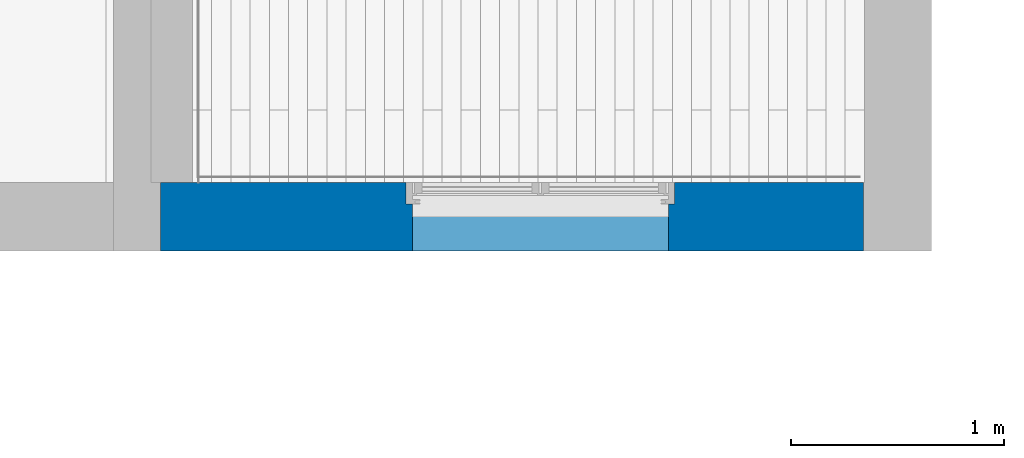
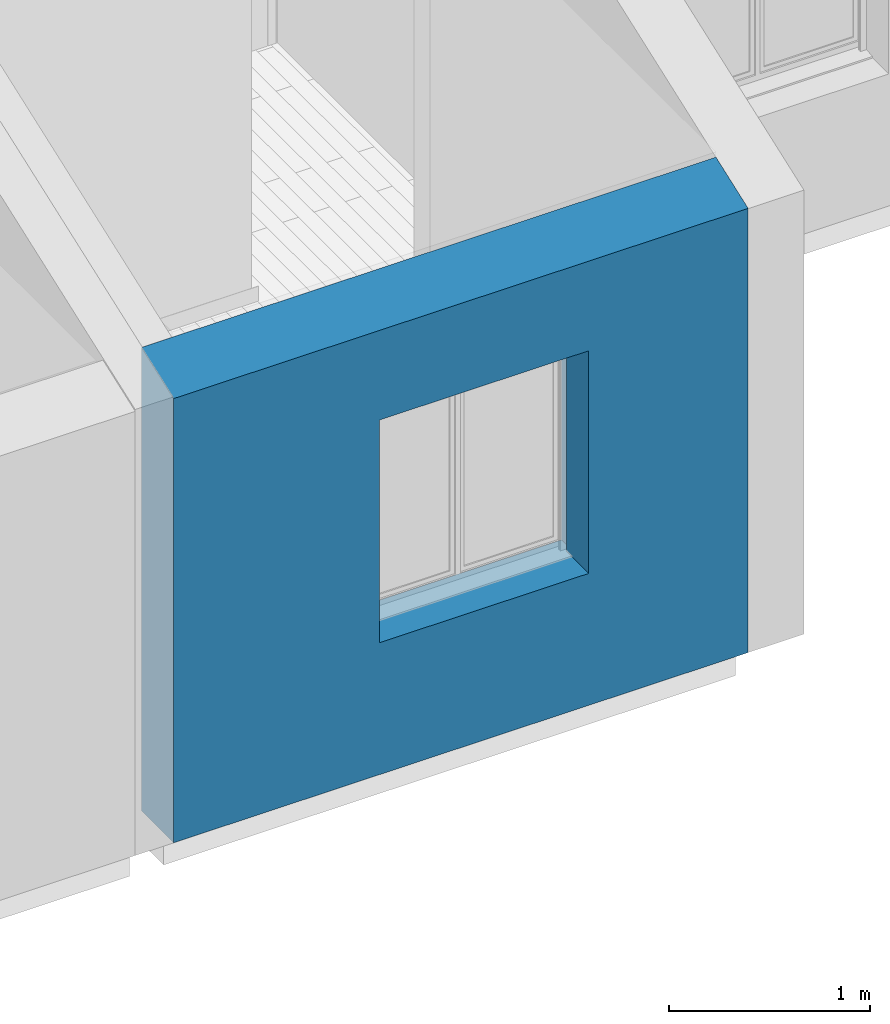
# One storey, part 26 of 61: 1 wall, 1 opening.
"""IFC2X3 building model written with IfcOpenShell, lengths in metres."""

import ifcopenshell
import ifcopenshell.guid

model = None  # the IFC model being written
_history = None  # IfcOwnerHistory: only IFC2X3 demands one
_inside = {}  # id of a spatial element -> (the spatial element, [elements in it])
_under = {}  # id of a project, library or spatial element -> (it, [spatial elements below it])
_declared = {}  # id of a project -> (the project, [libraries it declares])
_typed = {}  # id of a type object -> (the type object, [elements of that type])
_made_of = {}  # id of a material, layer set ... -> (it, [elements and type objects made of it])


def new_model(schema):
    """Start an empty IFC model of exactly this schema.

    Asked for "IFC4X3", IfcOpenShell would pick the latest addendum, in which some entities
    have other attributes; the version numbers below select the first issue.
    IFC2X3 requires an IfcOwnerHistory on every rooted entity: one is made here for all.
    """
    global model, _history
    if schema == "IFC4X3":
        model = ifcopenshell.file(schema_version=(4, 3, 0, 0))
    else:
        model = ifcopenshell.file(schema=schema)
    _inside.clear()
    _under.clear()
    _declared.clear()
    _typed.clear()
    _made_of.clear()
    _history = None
    if model.schema == "IFC2X3":
        org = make("IfcOrganization", Name="unknown")
        user = make(
            "IfcPersonAndOrganization",
            ThePerson=make("IfcPerson", FamilyName="unknown"),
            TheOrganization=org,
        )
        app = make(
            "IfcApplication",
            ApplicationDeveloper=org,
            Version="unknown",
            ApplicationFullName="unknown",
            ApplicationIdentifier="unknown",
        )
        _history = make(
            "IfcOwnerHistory",
            OwningUser=user,
            OwningApplication=app,
            ChangeAction="ADDED",
            CreationDate=0,
        )
    return model


def make(cls, **values):
    """One entity of the class cls with the attributes given. An attribute that is None is left unset."""
    return model.create_entity(
        cls, **{name: value for name, value in values.items() if value is not None}
    )


def entity(cls, *values):
    """Any entity or typed value of the class cls, its attributes in the order of the schema. None: left unset."""
    e = model.create_entity(cls)
    for i, value in enumerate(values):
        if value is not None:
            e[i] = value
    return e


def rooted(cls, **values):
    """An entity with a GlobalId (a new one), such as an element, a storey or a relation."""
    return make(cls, GlobalId=ifcopenshell.guid.new(), OwnerHistory=_history, **values)


def si_unit(unit_type, name, prefix=None):
    """IfcSIUnit, for example si_unit("LENGTHUNIT", "METRE", prefix="MILLI")."""
    return make("IfcSIUnit", UnitType=unit_type, Prefix=prefix, Name=name)


def converted_unit(unit_type, name, factor, base, dimensions=None, offset=None):
    """IfcConversionBasedUnit, such as the inch: factor (a typed value) times the base unit."""
    return make(
        "IfcConversionBasedUnit"
        if offset is None
        else "IfcConversionBasedUnitWithOffset",
        ConversionOffset=offset,
        Dimensions=None
        if dimensions is None
        else entity("IfcDimensionalExponents", *dimensions),
        UnitType=unit_type,
        Name=name,
        ConversionFactor=make(
            "IfcMeasureWithUnit", ValueComponent=factor, UnitComponent=base
        ),
    )


def derived_unit(unit_type, elements):
    """IfcDerivedUnit: a product of units, each with its exponent."""
    return make(
        "IfcDerivedUnit",
        Elements=[
            make("IfcDerivedUnitElement", Unit=unit, Exponent=power)
            for unit, power in elements
        ],
        UnitType=unit_type,
    )


def assignment(units):
    """IfcUnitAssignment: the units of a project."""
    return None if units is None else make("IfcUnitAssignment", Units=units)


def point(xyz):
    """IfcCartesianPoint."""
    return None if xyz is None else make("IfcCartesianPoint", Coordinates=xyz)


def direction(xyz):
    """IfcDirection."""
    return None if xyz is None else make("IfcDirection", DirectionRatios=xyz)


def frame(location, z_axis=None, x_axis=None):
    """IfcAxis2Placement3D, a coordinate frame: its origin and axes. An axis left out is left unset."""
    return make(
        "IfcAxis2Placement3D",
        Location=point(location),
        Axis=direction(z_axis),
        RefDirection=direction(x_axis),
    )


def frame_2d(location, x_axis=None):
    """IfcAxis2Placement2D, a coordinate frame in the plane: its origin and x axis."""
    return make(
        "IfcAxis2Placement2D", Location=point(location), RefDirection=direction(x_axis)
    )


def origin():
    """The frame at (0, 0, 0) with its axes left unset."""
    return frame((0.0, 0.0, 0.0))


def place(relative_to, where):
    """IfcLocalPlacement: puts the frame where relative to a parent placement (None: the world)."""
    return make(
        "IfcLocalPlacement", PlacementRelTo=relative_to, RelativePlacement=where
    )


def context(
    kind, dimensions, precision=None, world=None, true_north=None, identifier=None
):
    """IfcGeometricRepresentationContext, for example the 3D "Model" context."""
    return make(
        "IfcGeometricRepresentationContext",
        ContextIdentifier=identifier,
        ContextType=kind,
        CoordinateSpaceDimension=dimensions,
        Precision=precision,
        WorldCoordinateSystem=world,
        TrueNorth=true_north,
    )


def subcontext(parent, identifier, kind, view, scale=None):
    """IfcGeometricRepresentationSubContext, for example "Body" below "Model"."""
    return make(
        "IfcGeometricRepresentationSubContext",
        ContextIdentifier=identifier,
        ContextType=kind,
        ParentContext=parent,
        TargetScale=scale,
        TargetView=view,
    )


def project(units=None, contexts=None):
    """IfcProject with its units and contexts."""
    return rooted(
        "IfcProject",
        Name="project",
        RepresentationContexts=contexts,
        UnitsInContext=assignment(units),
    )


def spatial(cls, under=None, at=None, **own):
    """A site, building, storey or space (cls), placed at a placement, below another one or the project."""
    s = rooted(cls, ObjectPlacement=at, **own)
    if under is not None:
        _under.setdefault(under.id(), (under, []))[1].append(s)
    return s


def polyline(points):
    """IfcPolyline through the points."""
    return make("IfcPolyline", Points=[point(p) for p in points])


def profile(cls, at=None, kind="AREA", **sizes):
    """A parametric profile (cls). Its sizes go by their IFC names, for example OverallWidth=200.0."""
    return make(cls, ProfileType=kind, Position=at, **sizes)


def rectangle(**sizes):
    """IfcRectangleProfileDef."""
    return profile("IfcRectangleProfileDef", **sizes)


def extrude(swept, where, along, depth):
    """IfcExtrudedAreaSolid: the profile swept, set in the frame where, extruded along a direction by depth."""
    return make(
        "IfcExtrudedAreaSolid",
        SweptArea=swept,
        Position=where,
        ExtrudedDirection=direction(along),
        Depth=depth,
    )


def clip(a, b, op="DIFFERENCE"):
    """IfcBooleanClippingResult: the solid a cut by the half space b."""
    return make(
        "IfcBooleanClippingResult", Operator=op, FirstOperand=a, SecondOperand=b
    )


def bounded_halfspace(plane, agree, where, boundary):
    """IfcPolygonalBoundedHalfSpace: a half space limited to a polygon's prism."""
    return make(
        "IfcPolygonalBoundedHalfSpace",
        BaseSurface=make("IfcPlane", Position=plane),
        AgreementFlag=agree,
        Position=where,
        PolygonalBoundary=boundary,
    )


def faces_of(points, faces, orient=None, outer=None):
    """IfcFace entities. A face is a list of loops; a loop is a list of indices into points, from 0.

    orient and outer hold one flag for each loop. By default every Orientation is true, the
    first loop of a face is its IfcFaceOuterBound and the others are IfcFaceBound.
    """
    made = []
    for i, loops in enumerate(faces):
        bounds = []
        for j, loop in enumerate(loops):
            is_outer = j == 0 if outer is None else outer[i][j]
            bounds.append(
                make(
                    "IfcFaceOuterBound" if is_outer else "IfcFaceBound",
                    Bound=make("IfcPolyLoop", Polygon=[points[k] for k in loop]),
                    Orientation=True if orient is None else orient[i][j],
                )
            )
        made.append(make("IfcFace", Bounds=bounds))
    return made


def faceted_brep(points, faces, orient=None, outer=None, voids=None):
    """IfcFacetedBrep: a solid bounded by flat faces; with voids (closed shells), ...WithVoids."""
    shared = [point(p) for p in points]
    hull = make("IfcClosedShell", CfsFaces=faces_of(shared, faces, orient, outer))
    if voids is None:
        return make("IfcFacetedBrep", Outer=hull)
    return make(
        "IfcFacetedBrepWithVoids",
        Outer=hull,
        Voids=[
            make(cls, CfsFaces=faces_of(shared, fs, o, b)) for cls, fs, o, b in voids
        ],
    )


def shape(context_of_items, identifier, shape_type, items):
    """IfcShapeRepresentation: the items that make up one representation, for example the "Body"."""
    return make(
        "IfcShapeRepresentation",
        ContextOfItems=context_of_items,
        RepresentationIdentifier=identifier,
        RepresentationType=shape_type,
        Items=items,
    )


def material(Name=None, Category=None):
    """IfcMaterial."""
    return make("IfcMaterial", Name=Name, Category=Category)


def layer(
    of_material, thickness, ventilated=None, Name=None, Category=None, Priority=None
):
    """IfcMaterialLayer: one layer of a wall or slab, of a material (None: an air gap)."""
    return make(
        "IfcMaterialLayer",
        Material=of_material,
        LayerThickness=thickness,
        IsVentilated=ventilated,
        Name=Name,
        Category=Category,
        Priority=Priority,
    )


def layer_set(layers, Name=None):
    """IfcMaterialLayerSet."""
    return make("IfcMaterialLayerSet", MaterialLayers=layers, LayerSetName=Name)


def layer_usage(for_layer_set, set_direction, sense, offset, extent=None):
    """IfcMaterialLayerSetUsage: how a layer set lies in its element."""
    return make(
        "IfcMaterialLayerSetUsage",
        ForLayerSet=for_layer_set,
        LayerSetDirection=set_direction,
        DirectionSense=sense,
        OffsetFromReferenceLine=offset,
        ReferenceExtent=extent,
    )


def made_of(thing, what):
    """Note that an element or type object is made of a material, layer set ...; save() writes the relation."""
    if what is not None:
        _made_of.setdefault(what.id(), (what, []))[1].append(thing)
    return thing


def type_object(cls, material=None, **own):
    """A type object (cls), such as IfcWallType, which elements share."""
    return made_of(rooted(cls, **own), material)


def element(
    cls,
    number,
    at=None,
    inside=None,
    cuts=None,
    type_object=None,
    material=None,
    context=None,
    identifier="Body",
    shape_type=None,
    held_by="IfcProductDefinitionShape",
    body=None,
    shapes=None,
    **own,
):
    """One element of the class cls, such as IfcWall. Its Tag is "e" and its number.

    at: its placement. inside: the storey or other place that contains it. cuts: it is an
    opening in that element (IfcRelVoidsElement). A single representation is given by context,
    identifier, shape_type and body (its items); several are given by shapes. held_by: the class
    of the entity that holds the representations. save() writes the other relations.
    """
    e = rooted(cls, Tag="e%d" % number, ObjectPlacement=at, **own)
    if body is not None:
        shapes = [shape(context, identifier, shape_type, body)]
    if shapes is not None:
        e.Representation = make(held_by, Representations=shapes)
    if inside is not None:
        _inside.setdefault(inside.id(), (inside, []))[1].append(e)
    if cuts is not None:
        rooted(
            "IfcRelVoidsElement", RelatingBuildingElement=cuts, RelatedOpeningElement=e
        )
    if type_object is not None:
        _typed.setdefault(type_object.id(), (type_object, []))[1].append(e)
    return made_of(e, material)


def aggregate(whole, parts):
    """IfcRelAggregates: a whole, such as a stair, and the parts it consists of."""
    return rooted("IfcRelAggregates", RelatingObject=whole, RelatedObjects=parts)


def save(model, path):
    """Write the relations noted so far, then the file.

    IfcRelAggregates (storeys below a building ...), IfcRelContainedInSpatialStructure (elements
    in a storey), IfcRelDefinesByType, IfcRelAssociatesMaterial and IfcRelDeclares: one each for
    every whole, place, type object, material and project.
    """
    for whole, parts in _under.values():
        aggregate(whole, parts)
    for where, things in _inside.values():
        rooted(
            "IfcRelContainedInSpatialStructure",
            RelatedElements=things,
            RelatingStructure=where,
        )
    for kind, things in _typed.values():
        rooted("IfcRelDefinesByType", RelatedObjects=things, RelatingType=kind)
    for what, things in _made_of.values():
        rooted("IfcRelAssociatesMaterial", RelatedObjects=things, RelatingMaterial=what)
    for by, libraries in _declared.values():
        rooted("IfcRelDeclares", RelatingContext=by, RelatedDefinitions=libraries)
    model.write(path)


model = new_model("IFC2X3")

# Units and contexts
model_context = context("Model", 3, precision=1e-05, world=origin(), true_north=direction((6.12303176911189e-17, 1.0)))
body_context = subcontext(model_context, "Body", "Model", "MODEL_VIEW")
ifc_project = project(units=[si_unit("LENGTHUNIT", "METRE"), si_unit("AREAUNIT", "SQUARE_METRE"), si_unit("VOLUMEUNIT", "CUBIC_METRE"), converted_unit("PLANEANGLEUNIT", "DEGREE", entity("IfcRatioMeasure", 0.0174532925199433), si_unit("PLANEANGLEUNIT", "RADIAN"), dimensions=[0, 0, 0, 0, 0, 0, 0]), si_unit("MASSUNIT", "GRAM", prefix="KILO"), derived_unit("MASSDENSITYUNIT", [(si_unit("MASSUNIT", "GRAM", prefix="KILO"), 1), (si_unit("LENGTHUNIT", "METRE"), -3)]), si_unit("TIMEUNIT", "SECOND"), si_unit("FREQUENCYUNIT", "HERTZ"), si_unit("THERMODYNAMICTEMPERATUREUNIT", "DEGREE_CELSIUS"), derived_unit("THERMALTRANSMITTANCEUNIT", [(si_unit("MASSUNIT", "GRAM", prefix="KILO"), 1), (si_unit("THERMODYNAMICTEMPERATUREUNIT", "KELVIN"), -1), (si_unit("TIMEUNIT", "SECOND"), -3)]), derived_unit("VOLUMETRICFLOWRATEUNIT", [(si_unit("LENGTHUNIT", "METRE"), 3), (si_unit("TIMEUNIT", "SECOND"), -1)]), si_unit("ELECTRICCURRENTUNIT", "AMPERE"), si_unit("ELECTRICVOLTAGEUNIT", "VOLT"), si_unit("POWERUNIT", "WATT"), si_unit("FORCEUNIT", "NEWTON", prefix="KILO"), si_unit("ILLUMINANCEUNIT", "LUX"), si_unit("LUMINOUSFLUXUNIT", "LUMEN"), si_unit("LUMINOUSINTENSITYUNIT", "CANDELA"), derived_unit("USERDEFINED", [(si_unit("MASSUNIT", "GRAM", prefix="KILO"), -1), (si_unit("LENGTHUNIT", "METRE"), -2), (si_unit("TIMEUNIT", "SECOND"), 3), (si_unit("LUMINOUSFLUXUNIT", "LUMEN"), 1)]), derived_unit("LINEARVELOCITYUNIT", [(si_unit("LENGTHUNIT", "METRE"), 1), (si_unit("TIMEUNIT", "SECOND"), -1)]), si_unit("PRESSUREUNIT", "PASCAL"), derived_unit("USERDEFINED", [(si_unit("LENGTHUNIT", "METRE"), -2), (si_unit("MASSUNIT", "GRAM", prefix="KILO"), 1), (si_unit("TIMEUNIT", "SECOND"), -2)])], contexts=[model_context])

# Site, building, storey
site_placement = place(None, origin())
site = spatial("IfcSite", under=ifc_project, at=site_placement, Name="Surface", CompositionType="ELEMENT")
building_placement = place(site_placement, origin())
building = spatial("IfcBuilding", under=site, at=building_placement, CompositionType="ELEMENT")
storey_placement = place(building_placement, frame((0.0, 0.0, 2.82)))
storey = spatial("IfcBuildingStorey", under=building, at=storey_placement, Name="ETAGE", CompositionType="ELEMENT", Elevation=2.82)

# Wall, opening
ifc_material_1 = material(Name="Enduit  gris")
ifc_layer_1 = layer(ifc_material_1, 0.02)
ifc_material_2 = material(Name="Parpaing")
ifc_layer_2 = layer(ifc_material_2, 0.2)
ifc_material_3 = material(Name="Isolant")
ifc_layer_3 = layer(ifc_material_3, 0.1)
ifc_layer_set = layer_set([ifc_layer_1, ifc_layer_2, ifc_layer_3], Name="Mur de base:Ext. Parpaing 20 + Isolant 10 enduit gris")
ifc_layer_usage = layer_usage(ifc_layer_set, "AXIS2", "NEGATIVE", 0.16)
wall_type = type_object("IfcWallType", Name="Mur de base:Ext. Parpaing 20 + Isolant 10 enduit gris", PredefinedType="STANDARD", material=ifc_layer_set)
wall_placement = place(storey_placement, frame((87.0467857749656, 81.0875239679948, 0.0), z_axis=(0.0, 0.0, 1.0), x_axis=(-1.0, 0.0, 0.0)))
wall = element("IfcWallStandardCase", 1, at=wall_placement, inside=storey, type_object=wall_type, material=ifc_layer_usage, Name="Mur de base:Ext. Parpaing 20 + Isolant 10 enduit gris", ObjectType="Mur de base:Ext. Parpaing 20 + Isolant 10 enduit gris", context=body_context, shape_type="Clipping", body=[
    clip(extrude(rectangle(XDim=3.29538340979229, YDim=0.319999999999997, at=frame_2d((1.64769170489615, 0.0), x_axis=(-1.0, 0.0))), origin(), (0.0, 0.0, 1.0), 2.80992330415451), bounded_halfspace(frame((0.0, -0.159999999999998, 2.80992330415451), z_axis=(0.0, -0.342020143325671, -0.939692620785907), x_axis=(1.0, 0.0, 0.0)), True, frame((0.0, -0.159999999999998, 2.80992330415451)), polyline([(0.0, 0.0), (3.12038340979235, 0.0), (3.29538340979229, 0.0), (3.29538340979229, 0.319999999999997), (0.0, 0.319999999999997), (0.0, 0.0)]))),
])
opening_placement = place(wall_placement, frame((2.15499999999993, 0.460000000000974, 0.799999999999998), z_axis=(0.0, 0.0, 1.0), x_axis=(-1.0, 0.0, 0.0)))
element("IfcOpeningElement", 2, at=opening_placement, cuts=wall, Name="Mur de base:Ext. Parpaing 20 + Isolant 10 enduit gris", ObjectType="Opening", context=body_context, shape_type="Brep", body=[
    faceted_brep([(0.0400000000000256, 0.720000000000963, 1.35), (0.0400000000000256, 0.620000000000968, 1.35), (1.24000000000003, 0.620000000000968, 1.35), (1.24000000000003, 0.720000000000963, 1.35), (0.0400000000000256, 0.0, 0.0), (0.0400000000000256, 0.520000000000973, 0.0), (0.0100000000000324, 0.520000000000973, 0.0), (0.0100000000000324, 0.620000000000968, 0.0), (0.0400000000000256, 0.620000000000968, 0.0), (0.0400000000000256, 0.720000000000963, 0.0), (1.24000000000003, 0.720000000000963, 0.0), (1.24000000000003, 0.620000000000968, 0.0), (1.27000000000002, 0.620000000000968, 0.0), (1.27000000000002, 0.520000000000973, 0.0), (1.24000000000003, 0.520000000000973, 0.0), (1.24000000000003, 0.0, 0.0), (0.0400000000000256, 0.0, 1.35), (1.24000000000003, 0.0, 1.35), (0.0400000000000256, 0.520000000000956, 1.35), (0.0100000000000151, 0.620000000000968, 1.38), (0.0, 0.620000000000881, 1.38000000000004), (0.0, 0.620000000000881, 1.59000000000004), (1.28000000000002, 0.620000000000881, 1.59000000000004), (1.28000000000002, 0.620000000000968, 1.38000000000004), (1.27000000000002, 0.620000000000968, 1.38), (1.27000000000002, 0.520000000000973, 1.38), (1.28000000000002, 0.520000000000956, 1.38000000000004), (1.28000000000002, 0.520000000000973, 1.59000000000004), (0.0, 0.520000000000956, 1.59000000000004), (0.0, 0.520000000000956, 1.38000000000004), (0.0100000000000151, 0.520000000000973, 1.38), (1.24000000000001, 0.520000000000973, 1.35)], [[[0, 1, 2, 3]], [[4, 5, 6, 7, 8, 9, 10, 11, 12, 13, 14, 15]], [[16, 4, 15, 17]], [[3, 2, 11, 10]], [[3, 10, 9, 0]], [[16, 18, 5, 4]], [[11, 2, 1, 8, 7, 19, 20, 21, 22, 23, 24, 12]], [[12, 24, 25, 13]], [[13, 25, 26, 27, 28, 29, 30, 6, 5, 18, 31, 14]], [[7, 6, 30, 19]], [[26, 23, 22, 27]], [[29, 28, 21, 20]], [[26, 25, 24, 23]], [[22, 21, 28, 27]], [[20, 19, 30, 29]], [[9, 8, 1, 0]], [[15, 14, 31, 17]], [[17, 31, 18, 16]]]),
])

save(model, "model.ifc")
